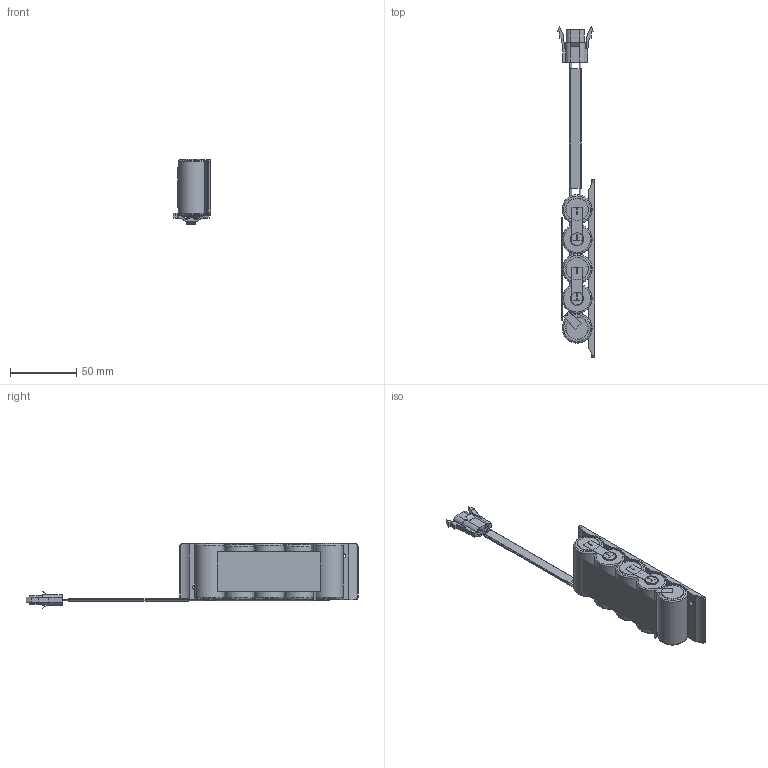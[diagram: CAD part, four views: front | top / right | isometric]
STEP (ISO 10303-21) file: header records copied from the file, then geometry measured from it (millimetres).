
FILE_DESCRIPTION((''),'2;1');
FILE_NAME('15013943Z_DMEC28002093_5APACK_D','2020-10-13T08:06:57',('Juergen.Hrach'),(''),'CREO PARAMETRIC BY PTC INC, 2019164','CREO PARAMETRIC BY PTC INC, 2019164','');
FILE_SCHEMA(('CONFIG_CONTROL_DESIGN'));
Length unit declared in the file: millimetre
Products named in the file (1): 15013943Z_DMEC28002093_5APACK_D
Bounding box: 28 x 250.47 x 49.55 mm (x, y, z)
Volume: 103860.8 mm3; surface area: 38650 mm2
Topology: 5 solids, 5 shells, 398 faces, 1073 edges, 661 vertices
Faces by surface type: plane 202, cylinder 110, torus 58, sphere 24, bspline 4
Entity records: 13270 total; most frequent: CARTESIAN_POINT 3140, DIRECTION 2192, ORIENTED_EDGE 2098, EDGE_CURVE 1049, AXIS2_PLACEMENT_3D 813, VERTEX_POINT 661, VECTOR 566, LINE 566
